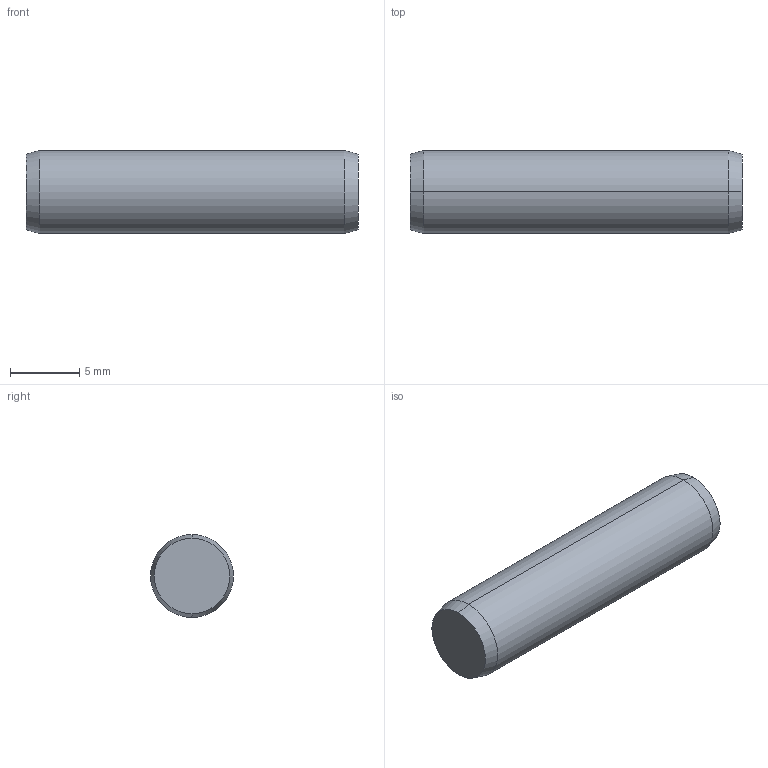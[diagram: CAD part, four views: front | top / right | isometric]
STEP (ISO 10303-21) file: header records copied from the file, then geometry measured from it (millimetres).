
FILE_DESCRIPTION (( 'STEP AP203' ), '1' );
FILE_NAME ('P1206.060-024.step', '2017-06-14T08:20:55', ( 'User' ), ( '' ), 'SwSTEP 2.0', 'SolidWorks 2009', '' );
FILE_SCHEMA (( 'CONFIG_CONTROL_DESIGN' ));
Length unit declared in the file: millimetre
Products named in the file (1): P1206.060-024
Bounding box: 24 x 6 x 6 mm (x, y, z)
Volume: 673.7 mm3; surface area: 498.9 mm2
Topology: 1 solids, 1 shells, 8 faces, 14 edges, 8 vertices
Faces by surface type: cone 4, cylinder 2, plane 2
Entity records: 271 total; most frequent: DIRECTION 40, CARTESIAN_POINT 31, ORIENTED_EDGE 28, AXIS2_PLACEMENT_3D 17, EDGE_CURVE 14, FACE_OUTER_BOUND 8, CIRCLE 8, PERSON_AND_ORGANIZATION 8
